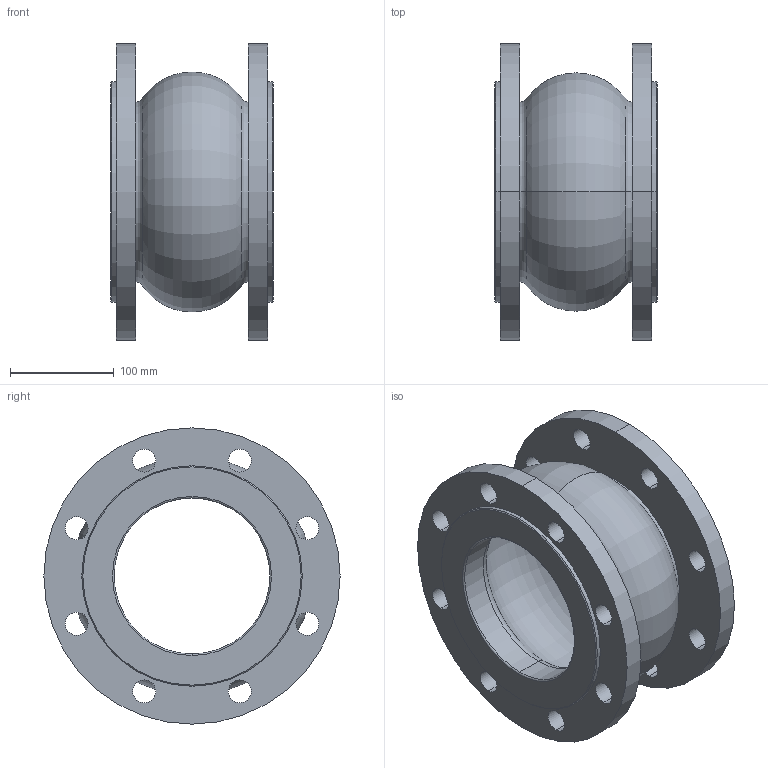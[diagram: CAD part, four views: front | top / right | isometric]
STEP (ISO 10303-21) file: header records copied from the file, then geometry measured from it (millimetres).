
FILE_DESCRIPTION (( 'STEP AP203' ), '1' );
FILE_NAME ('F8_PN16_DN150.STEP', '2012-10-31T08:45:01', ( 'luca.saino' ), ( 'Hewlett-Packard Company' ), 'SwSTEP 2.0', 'SolidWorks 2012', '' );
FILE_SCHEMA (( 'CONFIG_CONTROL_DESIGN' ));
Length unit declared in the file: millimetre
Products named in the file (1): F8_PN16_DN150
Bounding box: 156 x 285 x 285 mm (x, y, z)
Volume: 2592119.5 mm3; surface area: 403765.9 mm2
Topology: 1 solids, 1 shells, 74 faces, 180 edges, 112 vertices
Faces by surface type: cylinder 44, torus 16, cone 8, plane 6
Entity records: 2365 total; most frequent: DIRECTION 458, CARTESIAN_POINT 367, ORIENTED_EDGE 360, AXIS2_PLACEMENT_3D 203, EDGE_CURVE 180, CIRCLE 128, VERTEX_POINT 112, EDGE_LOOP 112
